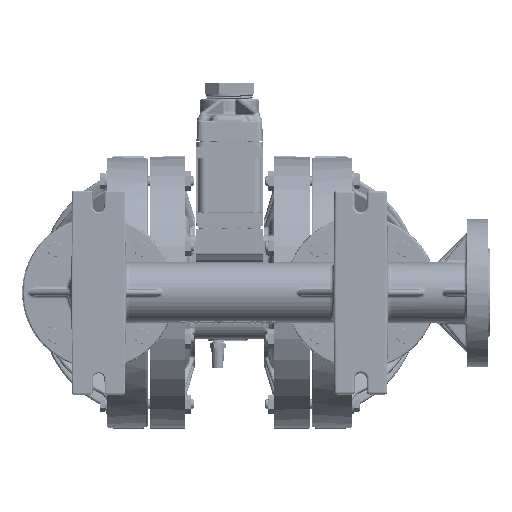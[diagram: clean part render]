
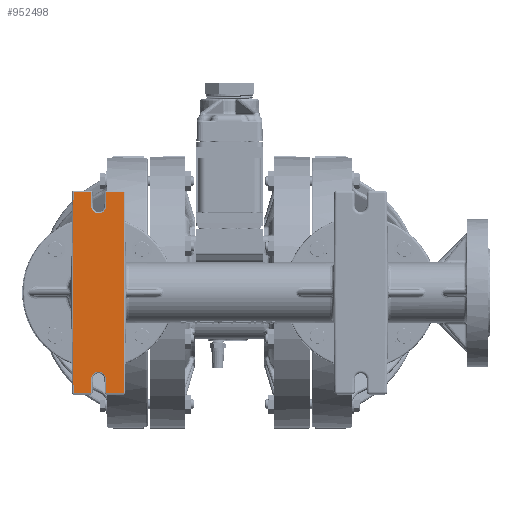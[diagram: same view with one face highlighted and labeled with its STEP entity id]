
A CAD part, front view. The second image highlights one B-rep face of the part: STEP entity #952498.
In plain terms, the highlighted planar face has unit normal (0, -1, 0).
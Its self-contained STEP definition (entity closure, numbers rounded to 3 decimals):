
#912100=DIRECTION('',(-1.,0.,0.));
#912101=VECTOR('',#912100,0.691);
#912102=CARTESIAN_POINT('',(-5.493,-12.884,3.98));
#912103=LINE('',#912102,#912101);
#912118=DIRECTION('',(-0.009,0.,1.));
#912119=VECTOR('',#912118,0.55);
#912120=CARTESIAN_POINT('',(-5.488,-12.884,3.43));
#912121=LINE('',#912120,#912119);
#912387=DIRECTION('',(-0.009,0.,1.));
#912388=VECTOR('',#912387,3.98);
#912389=CARTESIAN_POINT('',(-4.169,-12.884,0.));
#912390=LINE('',#912389,#912388);
#912424=DIRECTION('',(0.009,0.,1.));
#912425=VECTOR('',#912424,3.98);
#912426=CARTESIAN_POINT('',(-4.204,-12.884,-3.98));
#912427=LINE('',#912426,#912425);
#912709=DIRECTION('',(0.009,0.,-1.));
#912710=VECTOR('',#912709,3.98);
#912711=CARTESIAN_POINT('',(-6.219,-12.884,0.));
#912712=LINE('',#912711,#912710);
#912746=DIRECTION('',(1.,0.,0.));
#912747=VECTOR('',#912746,0.691);
#912748=CARTESIAN_POINT('',(-6.184,-12.884,-3.98));
#912749=LINE('',#912748,#912747);
#912764=DIRECTION('',(0.009,0.,1.));
#912765=VECTOR('',#912764,0.55);
#912766=CARTESIAN_POINT('',(-5.493,-12.884,-3.98));
#912767=LINE('',#912766,#912765);
#912777=CARTESIAN_POINT('',(-5.194,-12.884,-3.43));
#912778=DIRECTION('',(0.,1.,0.));
#912779=DIRECTION('',(-1.,0.,0.001));
#912780=AXIS2_PLACEMENT_3D('',#912777,#912778,#912779);
#912811=DIRECTION('',(0.009,0.,-1.));
#912812=VECTOR('',#912811,0.55);
#912813=CARTESIAN_POINT('',(-4.9,-12.884,-3.43));
#912814=LINE('',#912813,#912812);
#912848=DIRECTION('',(1.,0.,0.));
#912849=VECTOR('',#912848,0.691);
#912850=CARTESIAN_POINT('',(-4.895,-12.884,-3.98));
#912851=LINE('',#912850,#912849);
#912892=DIRECTION('',(-0.009,0.,-1.));
#912893=VECTOR('',#912892,3.98);
#912894=CARTESIAN_POINT('',(-6.184,-12.884,3.98));
#912895=LINE('',#912894,#912893);
#913664=DIRECTION('',(-1.,0.,0.));
#913665=VECTOR('',#913664,0.691);
#913666=CARTESIAN_POINT('',(-4.204,-12.884,3.98));
#913667=LINE('',#913666,#913665);
#913682=DIRECTION('',(-0.009,0.,-1.));
#913683=VECTOR('',#913682,0.55);
#913684=CARTESIAN_POINT('',(-4.895,-12.884,3.98));
#913685=LINE('',#913684,#913683);
#913695=CARTESIAN_POINT('',(-5.194,-12.884,3.43));
#913696=DIRECTION('',(0.,1.,0.));
#913697=DIRECTION('',(1.,0.,-0.001));
#913698=AXIS2_PLACEMENT_3D('',#913695,#913696,#913697);
#941317=CARTESIAN_POINT('',(-5.493,-12.884,3.98));
#941318=CARTESIAN_POINT('',(-6.184,-12.884,3.98));
#941319=VERTEX_POINT('',#941317);
#941320=VERTEX_POINT('',#941318);
#941323=CARTESIAN_POINT('',(-6.219,-12.884,0.));
#941324=VERTEX_POINT('',#941323);
#941329=CARTESIAN_POINT('',(-6.184,-12.884,-3.98));
#941330=VERTEX_POINT('',#941329);
#941368=CARTESIAN_POINT('',(-4.895,-12.884,-3.98));
#941369=CARTESIAN_POINT('',(-4.204,-12.884,-3.98));
#941370=VERTEX_POINT('',#941368);
#941371=VERTEX_POINT('',#941369);
#941374=CARTESIAN_POINT('',(-4.169,-12.884,0.));
#941375=VERTEX_POINT('',#941374);
#941380=CARTESIAN_POINT('',(-4.204,-12.884,3.98));
#941381=VERTEX_POINT('',#941380);
#941384=CARTESIAN_POINT('',(-4.895,-12.884,3.98));
#941385=VERTEX_POINT('',#941384);
#941390=CARTESIAN_POINT('',(-4.9,-12.884,3.43));
#941391=VERTEX_POINT('',#941390);
#941396=CARTESIAN_POINT('',(-5.488,-12.884,3.43));
#941397=VERTEX_POINT('',#941396);
#941411=CARTESIAN_POINT('',(-4.9,-12.884,-3.43));
#941412=VERTEX_POINT('',#941411);
#941415=CARTESIAN_POINT('',(-5.488,-12.884,-3.43));
#941416=VERTEX_POINT('',#941415);
#941419=CARTESIAN_POINT('',(-5.493,-12.884,-3.98));
#941420=VERTEX_POINT('',#941419);
#952464=CARTESIAN_POINT('',(0.,-12.884,0.));
#952465=DIRECTION('',(0.,1.,0.));
#952466=DIRECTION('',(-1.,0.,0.));
#952467=AXIS2_PLACEMENT_3D('',#952464,#952465,#952466);
#952468=PLANE('',#952467);
#952469=ORIENTED_EDGE('',*,*,#952454,.F.);
#952471=ORIENTED_EDGE('',*,*,#952470,.F.);
#952473=ORIENTED_EDGE('',*,*,#952472,.F.);
#952475=ORIENTED_EDGE('',*,*,#952474,.F.);
#952477=ORIENTED_EDGE('',*,*,#952476,.F.);
#952479=ORIENTED_EDGE('',*,*,#952478,.F.);
#952481=ORIENTED_EDGE('',*,*,#952480,.F.);
#952483=ORIENTED_EDGE('',*,*,#952482,.F.);
#952485=ORIENTED_EDGE('',*,*,#952484,.F.);
#952487=ORIENTED_EDGE('',*,*,#952486,.F.);
#952489=ORIENTED_EDGE('',*,*,#952488,.F.);
#952491=ORIENTED_EDGE('',*,*,#952490,.F.);
#952493=ORIENTED_EDGE('',*,*,#952492,.F.);
#952495=ORIENTED_EDGE('',*,*,#952494,.F.);
#952496=EDGE_LOOP('',(#952469,#952471,#952473,#952475,#952477,#952479,#952481,
#952483,#952485,#952487,#952489,#952491,#952493,#952495));
#952497=FACE_OUTER_BOUND('',#952496,.F.);
#912781=CIRCLE('',#912780,0.295);
#913699=CIRCLE('',#913698,0.295);
#952454=EDGE_CURVE('',#941319,#941320,#912103,.T.);
#952470=EDGE_CURVE('',#941397,#941319,#912121,.T.);
#952472=EDGE_CURVE('',#941391,#941397,#913699,.T.);
#952474=EDGE_CURVE('',#941385,#941391,#913685,.T.);
#952476=EDGE_CURVE('',#941381,#941385,#913667,.T.);
#952478=EDGE_CURVE('',#941375,#941381,#912390,.T.);
#952480=EDGE_CURVE('',#941371,#941375,#912427,.T.);
#952482=EDGE_CURVE('',#941370,#941371,#912851,.T.);
#952484=EDGE_CURVE('',#941412,#941370,#912814,.T.);
#952486=EDGE_CURVE('',#941416,#941412,#912781,.T.);
#952488=EDGE_CURVE('',#941420,#941416,#912767,.T.);
#952490=EDGE_CURVE('',#941330,#941420,#912749,.T.);
#952492=EDGE_CURVE('',#941324,#941330,#912712,.T.);
#952494=EDGE_CURVE('',#941320,#941324,#912895,.T.);
#952498=ADVANCED_FACE('',(#952497),#952468,.F.);
